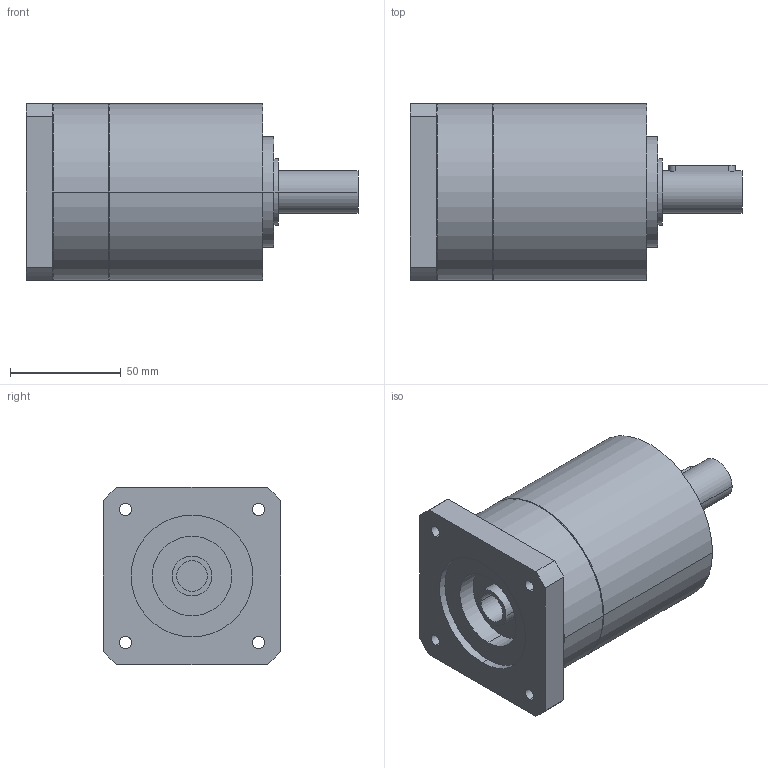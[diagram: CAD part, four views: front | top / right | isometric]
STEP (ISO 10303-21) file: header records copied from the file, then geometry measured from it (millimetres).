
FILE_DESCRIPTION(('CoCreate Modeling STEP Export'),'2;1');
FILE_NAME('GPR100_ig-3-4-5-6_19_B14_14_P20.stp','2014-08-26T10:07:18',(''),(''),'CoCreate Modeling STEP processor for AP214 (Solid Model)','CoCreate Modeling 16.00C 25-Feb-2009 (C) Parametric Technology GmbH','');
FILE_SCHEMA(('AUTOMOTIVE_DESIGN { 1 0 10303 214 1 1 1 1 }'));
Length unit declared in the file: millimetre
Products named in the file (2): GPR100_ig-3-4-5-6_19_B14_14_P20
Assembly tree (1 placements, depth 2):
  GPR100_ig-3-4-5-6_19_B14_14_P20
    GPR100_ig-3-4-5-6_19_B14_14_P20
Bounding box: 150 x 80 x 80 mm (x, y, z)
Volume: 551404.6 mm3; surface area: 49388.5 mm2
Topology: 1 solids, 1 shells, 86 faces, 222 edges, 150 vertices
Faces by surface type: cylinder 50, plane 30, cone 6
Entity records: 2267 total; most frequent: ORIENTED_EDGE 440, CARTESIAN_POINT 408, DIRECTION 314, EDGE_CURVE 220, VERTEX_POINT 150, AXIS2_PLACEMENT_3D 120, EDGE_LOOP 108, FACE_OUTER_BOUND 86
